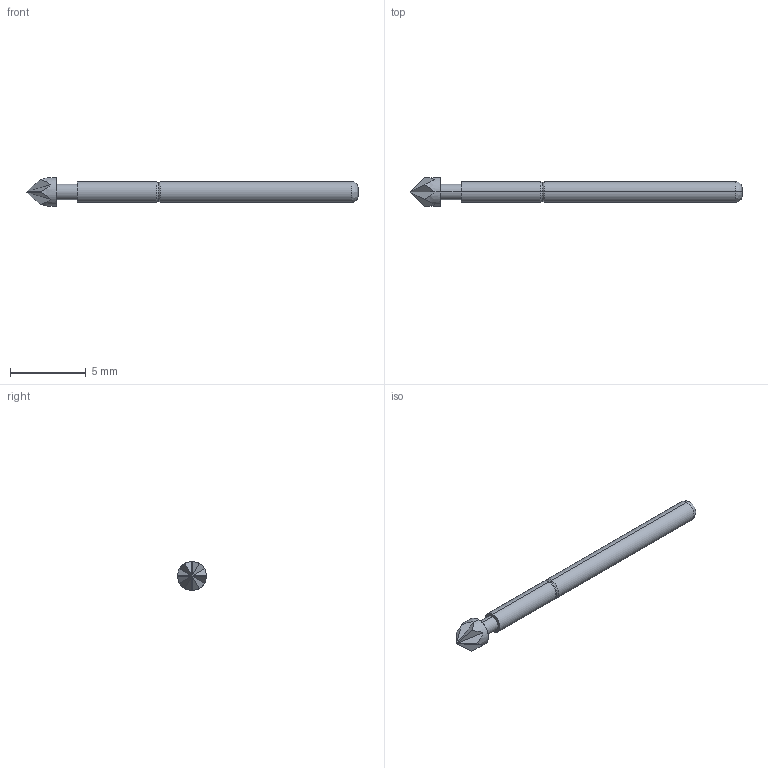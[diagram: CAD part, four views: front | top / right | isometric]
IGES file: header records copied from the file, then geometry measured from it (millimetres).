
Start section: SolidWorks IGES file using analytic representation for surfaces
Global section: file name: Z:\probe solid model mockups\Solidworks models\IGES Files\EPA-2\EPA-2P RECD.IGS; native system: SolidWorks 2006 by SolidWorks Corporation; preprocessor: SolidWorks 2006 by SolidWorks Corporation; author: tsakatani; date: 071220.162420; units: inch
Bounding box: 21.92 x 1.91 x 1.91 mm (x, y, z)
Surface area: 98.3 mm2 (no closed solid volume)
Topology: 0 solids, 0 shells, 29 faces, 222 edges, 222 vertices
Faces by surface type: bspline 21, revolution 8
